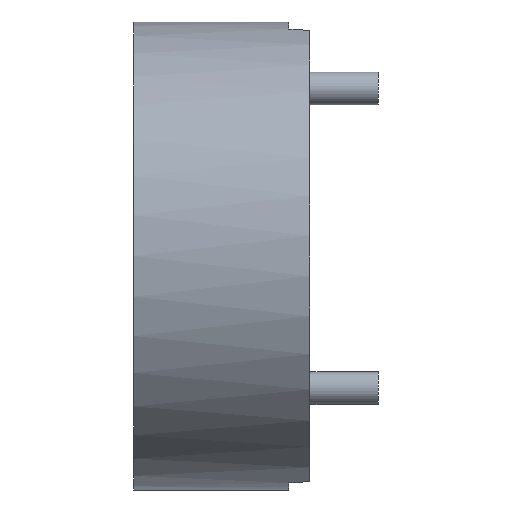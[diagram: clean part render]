
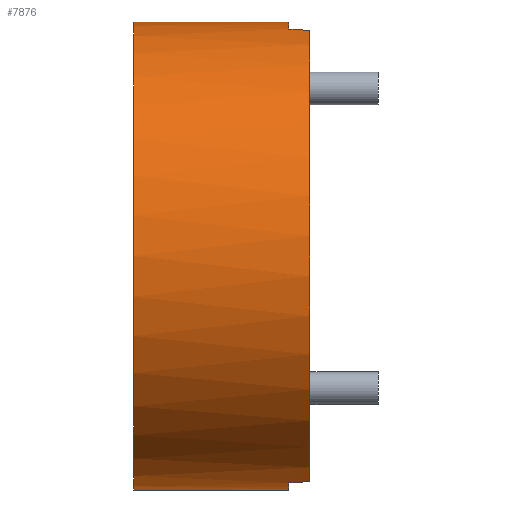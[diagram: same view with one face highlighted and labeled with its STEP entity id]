
A CAD part, left-side view. The second image highlights one B-rep face of the part: STEP entity #7876.
In plain terms, the highlighted cylindrical face has radius 14.287 mm (diameter 28.575 mm), a partial arc.
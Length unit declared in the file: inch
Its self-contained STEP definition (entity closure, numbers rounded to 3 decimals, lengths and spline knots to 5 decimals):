
#74 = CARTESIAN_POINT ( 'NONE',  ( 0., -0.1615, 0.5625 ) ) ;
#326 = CARTESIAN_POINT ( 'NONE',  ( -0.14555, -0.19489, 0.54336 ) ) ;
#330 = DIRECTION ( 'NONE',  ( 0., -1., 0. ) ) ;
#401 = DIRECTION ( 'NONE',  ( 0., -1., 0. ) ) ;
#467 = VERTEX_POINT ( 'NONE', #6864 ) ;
#483 = CARTESIAN_POINT ( 'NONE',  ( 0., -0.2115, 0. ) ) ;
#591 = EDGE_CURVE ( 'NONE', #467, #1523, #8565, .T. ) ;
#1194 = DIRECTION ( 'NONE',  ( 0., 0., 1. ) ) ;
#1415 = AXIS2_PLACEMENT_3D ( 'NONE', #3877, #6262, #8627 ) ;
#1523 = VERTEX_POINT ( 'NONE', #2492 ) ;
#1686 = ORIENTED_EDGE ( 'NONE', *, *, #3712, .T. ) ;
#1705 = ORIENTED_EDGE ( 'NONE', *, *, #6556, .T. ) ;
#1784 = ORIENTED_EDGE ( 'NONE', *, *, #8847, .T. ) ;
#2251 = AXIS2_PLACEMENT_3D ( 'NONE', #483, #9656, #1194 ) ;
#2492 = CARTESIAN_POINT ( 'NONE',  ( -0.1366, -0.1615, 0.54566 ) ) ;
#2776 = CARTESIAN_POINT ( 'NONE',  ( 0., 0.2115, 0. ) ) ;
#3234 = CARTESIAN_POINT ( 'NONE',  ( 0., -0.1615, -0.5625 ) ) ;
#3383 = CARTESIAN_POINT ( 'NONE',  ( 0., 0.2115, 0. ) ) ;
#3472 = CARTESIAN_POINT ( 'NONE',  ( 0., 0.2115, -0.5625 ) ) ;
#3690 = CARTESIAN_POINT ( 'NONE',  ( -0.14108, -0.17822, -0.54454 ) ) ;
#3712 = EDGE_CURVE ( 'NONE', #1523, #9846, #9942, .T. ) ;
#3850 = CIRCLE ( 'NONE', #1415, 0.5625 ) ;
#3877 = CARTESIAN_POINT ( 'NONE',  ( 0., -0.1615, 0. ) ) ;
#4020 = EDGE_CURVE ( 'NONE', #6909, #4939, #8966, .T. ) ;
#4036 = VERTEX_POINT ( 'NONE', #9816 ) ;
#4221 = CARTESIAN_POINT ( 'NONE',  ( 0., -0.1615, 0. ) ) ;
#4513 = DIRECTION ( 'NONE',  ( 0., 0., 1. ) ) ;
#4939 = VERTEX_POINT ( 'NONE', #8618 ) ;
#5059 = ORIENTED_EDGE ( 'NONE', *, *, #4020, .T. ) ;
#5081 = EDGE_CURVE ( 'NONE', #4036, #9846, #7211, .T. ) ;
#5113 = CYLINDRICAL_SURFACE ( 'NONE', #5464, 0.5625 ) ;
#5142 = ORIENTED_EDGE ( 'NONE', *, *, #9675, .F. ) ;
#5209 = CIRCLE ( 'NONE', #7144, 0.5625 ) ;
#5225 = CARTESIAN_POINT ( 'NONE',  ( 0., 0.2115, 0.5625 ) ) ;
#5278 = DIRECTION ( 'NONE',  ( 0., 1., 0. ) ) ;
#5402 = ORIENTED_EDGE ( 'NONE', *, *, #591, .T. ) ;
#5464 = AXIS2_PLACEMENT_3D ( 'NONE', #2776, #401, #9718 ) ;
#5600 = EDGE_LOOP ( 'NONE', ( #5898, #5142, #1784, #7821, #5059, #1705, #5402, #1686 ) ) ;
#5739 = CARTESIAN_POINT ( 'NONE',  ( 0., 0.2115, -0.5625 ) ) ;
#5754 = CARTESIAN_POINT ( 'NONE',  ( -0.15, -0.2115, 0.54213 ) ) ;
#5779 = DIRECTION ( 'NONE',  ( 0., 1., 0. ) ) ;
#5898 = ORIENTED_EDGE ( 'NONE', *, *, #5081, .F. ) ;
#6077 = CARTESIAN_POINT ( 'NONE',  ( -0.1366, -0.1615, -0.54566 ) ) ;
#6144 = CIRCLE ( 'NONE', #2251, 0.5625 ) ;
#6262 = DIRECTION ( 'NONE',  ( 0., 1., 0. ) ) ;
#6556 = EDGE_CURVE ( 'NONE', #4939, #467, #6144, .T. ) ;
#6729 = FACE_OUTER_BOUND ( 'NONE', #5600, .T. ) ;
#6864 = CARTESIAN_POINT ( 'NONE',  ( -0.15, -0.2115, 0.54213 ) ) ;
#6909 = VERTEX_POINT ( 'NONE', #8929 ) ;
#7144 = AXIS2_PLACEMENT_3D ( 'NONE', #3383, #5779, #8099 ) ;
#7211 = LINE ( 'NONE', #5225, #7869 ) ;
#7255 = VERTEX_POINT ( 'NONE', #3234 ) ;
#7494 = CARTESIAN_POINT ( 'NONE',  ( -0.15, -0.2115, -0.54213 ) ) ;
#7673 = VERTEX_POINT ( 'NONE', #5739 ) ;
#7821 = ORIENTED_EDGE ( 'NONE', *, *, #8658, .T. ) ;
#7869 = VECTOR ( 'NONE', #8825, 39.37008 ) ;
#7876 = ADVANCED_FACE ( 'NONE', ( #6729 ), #5113, .T. ) ;
#8099 = DIRECTION ( 'NONE',  ( 0., 0., 1. ) ) ;
#8176 = AXIS2_PLACEMENT_3D ( 'NONE', #4221, #5278, #4513 ) ;
#8565 =( BOUNDED_CURVE ( )  B_SPLINE_CURVE ( 3, ( #5754, #326, #9596, #8832 ),
 .UNSPECIFIED., .F., .T. ) 
 B_SPLINE_CURVE_WITH_KNOTS ( ( 4, 4 ),
 ( 1.30086, 1.32549 ),
 .UNSPECIFIED. ) 
 CURVE ( )  GEOMETRIC_REPRESENTATION_ITEM ( )  RATIONAL_B_SPLINE_CURVE ( ( 1., 1., 1., 1. ) ) 
 REPRESENTATION_ITEM ( '' )  );
#8618 = CARTESIAN_POINT ( 'NONE',  ( -0.15, -0.2115, -0.54213 ) ) ;
#8627 = DIRECTION ( 'NONE',  ( 0., 0., 1. ) ) ;
#8658 = EDGE_CURVE ( 'NONE', #7255, #6909, #3850, .T. ) ;
#8825 = DIRECTION ( 'NONE',  ( 0., -1., 0. ) ) ;
#8832 = CARTESIAN_POINT ( 'NONE',  ( -0.1366, -0.1615, 0.54566 ) ) ;
#8847 = EDGE_CURVE ( 'NONE', #7673, #7255, #9700, .T. ) ;
#8929 = CARTESIAN_POINT ( 'NONE',  ( -0.1366, -0.1615, -0.54566 ) ) ;
#8966 =( BOUNDED_CURVE ( )  B_SPLINE_CURVE ( 3, ( #6077, #3690, #9969, #7494 ),
 .UNSPECIFIED., .F., .T. ) 
 B_SPLINE_CURVE_WITH_KNOTS ( ( 4, 4 ),
 ( 4.95769, 4.98232 ),
 .UNSPECIFIED. ) 
 CURVE ( )  GEOMETRIC_REPRESENTATION_ITEM ( )  RATIONAL_B_SPLINE_CURVE ( ( 1., 1., 1., 1. ) ) 
 REPRESENTATION_ITEM ( '' )  );
#9402 = VECTOR ( 'NONE', #330, 39.37008 ) ;
#9596 = CARTESIAN_POINT ( 'NONE',  ( -0.14108, -0.17822, 0.54454 ) ) ;
#9656 = DIRECTION ( 'NONE',  ( 0., 1., 0. ) ) ;
#9675 = EDGE_CURVE ( 'NONE', #7673, #4036, #5209, .T. ) ;
#9700 = LINE ( 'NONE', #3472, #9402 ) ;
#9718 = DIRECTION ( 'NONE',  ( 0., 0., -1. ) ) ;
#9816 = CARTESIAN_POINT ( 'NONE',  ( 0., 0.2115, 0.5625 ) ) ;
#9846 = VERTEX_POINT ( 'NONE', #74 ) ;
#9942 = CIRCLE ( 'NONE', #8176, 0.5625 ) ;
#9969 = CARTESIAN_POINT ( 'NONE',  ( -0.14555, -0.19489, -0.54336 ) ) ;
